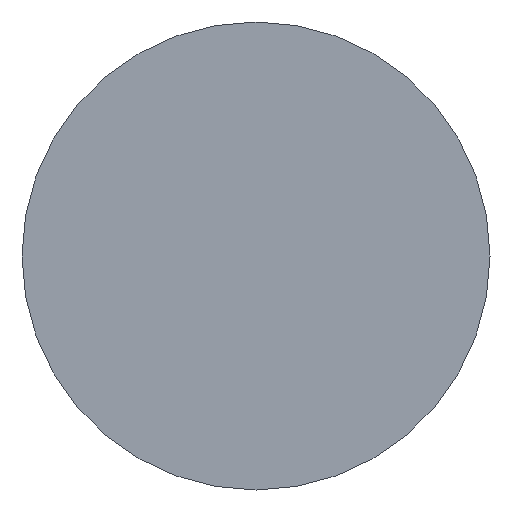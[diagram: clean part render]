
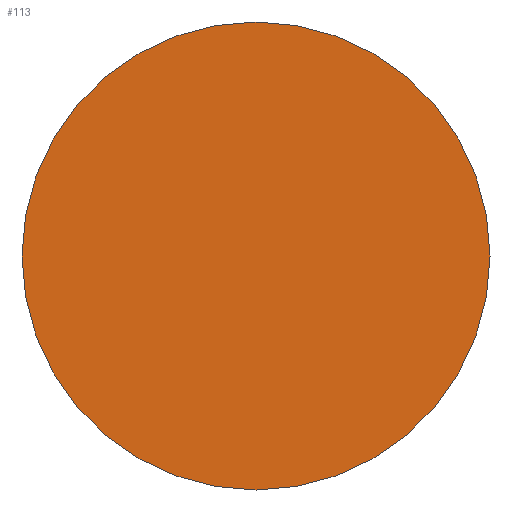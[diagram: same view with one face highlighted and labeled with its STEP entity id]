
A CAD part, left-side view. The second image highlights one B-rep face of the part: STEP entity #113.
In plain terms, the highlighted planar face has unit normal (-1, 0, 0).
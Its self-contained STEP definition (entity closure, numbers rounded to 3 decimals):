
#113 = ADVANCED_FACE ( 'NONE', ( #6681 ), #3200, .F. ) ;
#273 = DIRECTION ( 'NONE',  ( 1., 0., 0. ) ) ;
#381 = EDGE_CURVE ( 'NONE', #4910, #898, #7553, .T. ) ;
#898 = VERTEX_POINT ( 'NONE', #4095 ) ;
#1002 = CIRCLE ( 'NONE', #4912, 12.75 ) ;
#1418 = CARTESIAN_POINT ( 'NONE',  ( 0., 9.75, 0. ) ) ;
#1632 = DIRECTION ( 'NONE',  ( 0., 0., 1. ) ) ;
#1833 = CARTESIAN_POINT ( 'NONE',  ( 0., 0., 0. ) ) ;
#1973 = EDGE_LOOP ( 'NONE', ( #4404, #7880 ) ) ;
#2193 = CARTESIAN_POINT ( 'NONE',  ( 0., 0., -12.75 ) ) ;
#3010 = DIRECTION ( 'NONE',  ( -1., 0., 0. ) ) ;
#3200 = PLANE ( 'NONE',  #4234 ) ;
#3790 = AXIS2_PLACEMENT_3D ( 'NONE', #8299, #4952, #1632 ) ;
#3845 = DIRECTION ( 'NONE',  ( 0., 0., 1. ) ) ;
#4095 = CARTESIAN_POINT ( 'NONE',  ( 0., 0., 12.75 ) ) ;
#4234 = AXIS2_PLACEMENT_3D ( 'NONE', #1418, #273, #6161 ) ;
#4404 = ORIENTED_EDGE ( 'NONE', *, *, #6834, .T. ) ;
#4910 = VERTEX_POINT ( 'NONE', #2193 ) ;
#4912 = AXIS2_PLACEMENT_3D ( 'NONE', #1833, #3010, #3845 ) ;
#4952 = DIRECTION ( 'NONE',  ( -1., 0., 0. ) ) ;
#6161 = DIRECTION ( 'NONE',  ( 0., 0., -1. ) ) ;
#6681 = FACE_OUTER_BOUND ( 'NONE', #1973, .T. ) ;
#6834 = EDGE_CURVE ( 'NONE', #898, #4910, #1002, .T. ) ;
#7553 = CIRCLE ( 'NONE', #3790, 12.75 ) ;
#7880 = ORIENTED_EDGE ( 'NONE', *, *, #381, .T. ) ;
#8299 = CARTESIAN_POINT ( 'NONE',  ( 0., 0., 0. ) ) ;
